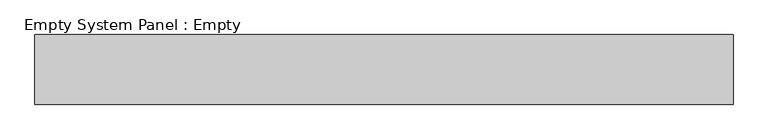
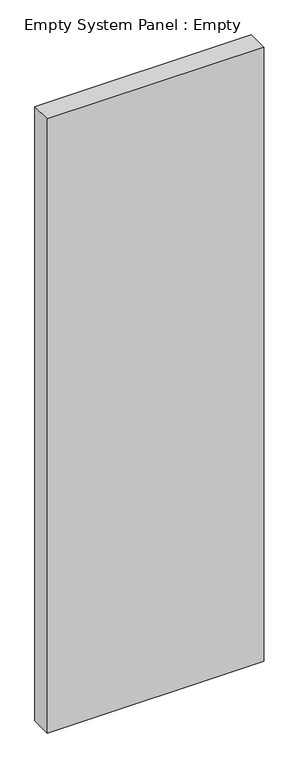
"""IFC4 building model written with IfcOpenShell, lengths in millimetres: plate geometry, Empty System Panel : Empty."""

from ifc_helpers import new_model, si_unit, origin, origin_with_axes, place, context, project, spatial, polyline, outline, extrude, source, transform, mapped, element, save


def empty_system_panel_empty_98ea7a2b(model_context):
    return source(origin(), model_context, "Body", "SweptSolid", [
        extrude(outline(polyline([(500.0000001, -50.0), (-500.0000001, -50.0), (-500.0000001, 50.0), (500.0000001, 50.0), (500.0000001, -50.0)])), origin_with_axes(), (0.0, 0.0, 1.0), 3000.0),
    ])


if __name__ == "__main__":
    model = new_model("IFC4")
    model_context = context("Model", 3, world=origin())
    ifc_project = project(units=[si_unit("LENGTHUNIT", "METRE", prefix="MILLI")], contexts=[model_context])
    site = spatial("IfcSite", under=ifc_project)
    building = spatial("IfcBuilding", under=site)
    placement = place(None, origin())
    empty_system_panel_empty_shape = empty_system_panel_empty_98ea7a2b(model_context)
    element("IfcPlate", 1, ObjectType="Empty System Panel : Empty", at=placement, inside=building, context=model_context, shape_type="MappedRepresentation", body=[
        mapped(empty_system_panel_empty_shape, transform((0.0, 0.0, 0.0), x_axis=(1.0, 0.0, 0.0), y_axis=(0.0, 1.0, 0.0), z_axis=(0.0, 0.0, 1.0))),
    ])
    save(model, "model.ifc")
